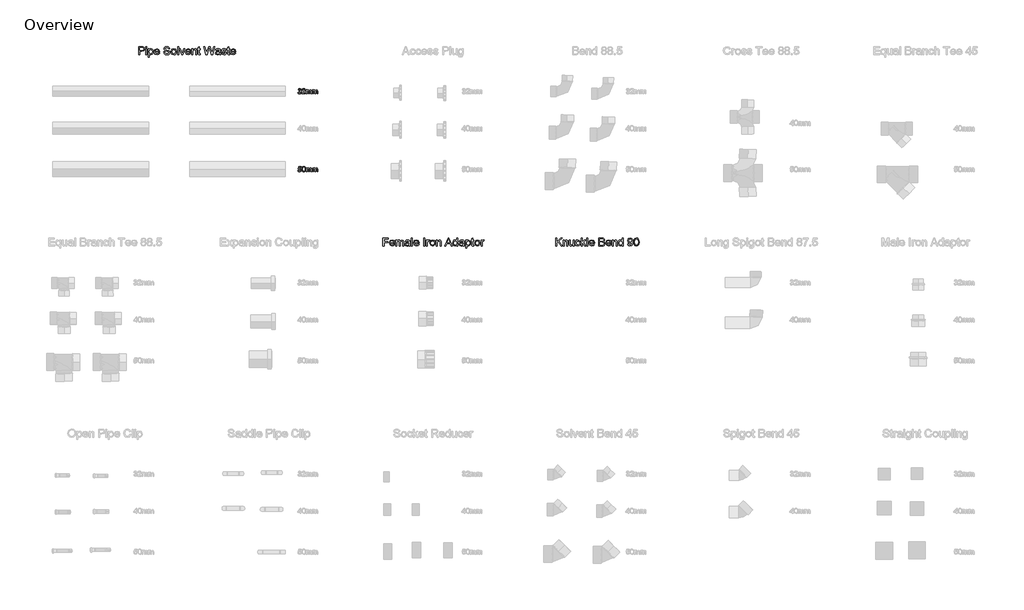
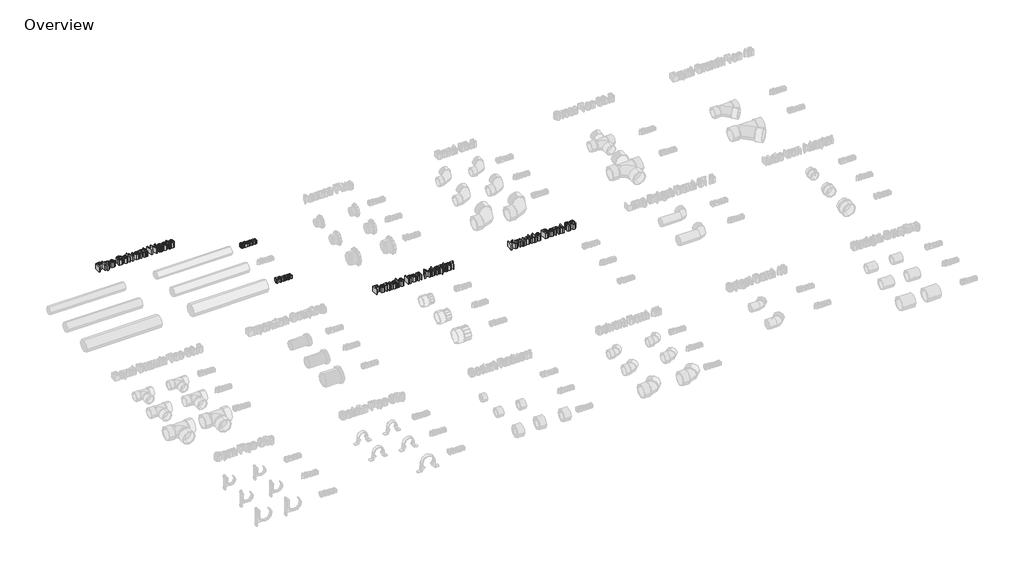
# One storey, part 6 of 10: 5 proxies.
"""IFC4 building model written with IfcOpenShell, lengths in millimetres."""

from ifc_helpers import new_model, si_unit, origin, origin_with_axes, place, context, project, spatial, polyline, outline, extrude, element, save

model = new_model("IFC4")

# Units and contexts
model_context = context("Model", 3, world=origin())
ifc_project = project(units=[si_unit("LENGTHUNIT", "METRE", prefix="MILLI")], contexts=[model_context])

# Site, building, storey
site = spatial("IfcSite", under=ifc_project)
building = spatial("IfcBuilding", under=site)
storey = spatial("IfcBuildingStorey", under=building, Name="Overview", Elevation=0.0)

# Proxies
placement = place(None, origin())
element("IfcBuildingElementProxy", 1, Name="20mm Arial", ObjectType="20mm Arial", at=placement, inside=storey, context=model_context, shape_type="SweptSolid", body=[
    extrude(outline(polyline([(-2298.2349117, 5121.4652453), (-2295.7733732, 5121.7729376), (-2294.4152001, 5119.1815914), (-2291.8743347, 5118.3883222), (-2288.8839501, 5119.4796684), (-2287.7733732, 5122.1815914), (-2288.8743347, 5124.7272645), (-2291.6724117, 5125.7344761), (-2293.3983732, 5125.4652453), (-2293.1243347, 5127.9267837), (-2289.9368347, 5128.6046684), (-2288.6964501, 5130.7777453), (-2289.5954886, 5132.7032261), (-2291.9127963, 5133.4652453), (-2294.2589501, 5132.6960145), (-2295.4656809, 5130.3883222), (-2297.9272194, 5130.6960145), (-2295.9127963, 5134.5565914), (-2291.9993347, 5135.9267837), (-2289.0305847, 5135.251303), (-2286.9536617, 5133.4051491), (-2286.2349117, 5130.9219761), (-2286.917604, 5128.6527453), (-2288.9368347, 5127.0229376), (-2286.2541424, 5125.3402453), (-2285.3118347, 5122.1383222), (-2287.1964501, 5117.7344761), (-2291.9608732, 5115.9267837), (-2296.2781809, 5117.470053), (-2298.2349117, 5121.4652453)])), origin_with_axes(), (0.0, 0.0, 1.0), 15.0),
    extrude(outline(polyline([(-2270.542604, 5118.6960145), (-2270.542604, 5116.2344761), (-2283.4656809, 5116.2344761), (-2283.2012578, 5117.9315914), (-2281.7060655, 5120.5445722), (-2278.6243347, 5123.3979376), (-2274.3743347, 5127.4988991), (-2273.3118347, 5130.2873607), (-2274.3142386, 5132.5445722), (-2276.9320271, 5133.4652453), (-2279.6603924, 5132.5662068), (-2280.6964501, 5130.0806299), (-2283.1579886, 5130.3883222), (-2281.2709694, 5134.5085145), (-2276.8791424, 5135.9267837), (-2272.4728924, 5134.3498607), (-2270.8502963, 5130.4363991), (-2271.2877963, 5128.1022645), (-2272.7421232, 5125.688803), (-2276.2685655, 5122.3162068), (-2279.1002963, 5119.9484184), (-2280.2108732, 5118.6960145), (-2270.542604, 5118.6960145)])), origin_with_axes(), (0.0, 0.0, 1.0), 15.0),
    extrude(outline(polyline([(-2267.4656809, 5116.2344761), (-2267.4656809, 5130.6960145), (-2265.0041424, 5130.6960145), (-2265.0041424, 5128.3162068), (-2263.3118347, 5130.2657261), (-2260.9031809, 5131.0037068), (-2258.4368347, 5130.251303), (-2257.0810655, 5128.1431299), (-2252.7349117, 5131.0037068), (-2249.5161617, 5129.813803), (-2248.3887578, 5126.1479376), (-2248.3887578, 5116.2344761), (-2250.8502963, 5116.2344761), (-2250.8502963, 5125.0902453), (-2251.0786617, 5127.1455337), (-2255.7325078, 5127.5565914), (-2256.6964501, 5124.3979376), (-2256.6964501, 5116.2344761), (-2259.1579886, 5116.2344761), (-2259.1579886, 5125.3642837), (-2259.7277001, 5127.7488991), (-2261.5954886, 5128.5421684), (-2263.417604, 5128.0133222), (-2264.6291424, 5126.4652453), (-2265.0041424, 5123.5277453), (-2265.0041424, 5116.2344761), (-2267.4656809, 5116.2344761)])), origin_with_axes(), (0.0, 0.0, 1.0), 15.0),
    extrude(outline(polyline([(-2244.6964501, 5116.2344761), (-2244.6964501, 5130.6960145), (-2242.2349117, 5130.6960145), (-2242.2349117, 5128.3162068), (-2240.542604, 5130.2657261), (-2238.1339501, 5131.0037068), (-2235.667604, 5130.251303), (-2234.3118347, 5128.1431299), (-2229.9656809, 5131.0037068), (-2226.7469309, 5129.813803), (-2225.6195271, 5126.1479376), (-2225.6195271, 5116.2344761), (-2228.0810655, 5116.2344761), (-2228.0810655, 5125.0902453), (-2228.3094309, 5127.1455337), (-2232.9632771, 5127.5565914), (-2233.9272194, 5124.3979376), (-2233.9272194, 5116.2344761), (-2236.3887578, 5116.2344761), (-2236.3887578, 5125.3642837), (-2236.9584694, 5127.7488991), (-2238.8262578, 5128.5421684), (-2240.6483732, 5128.0133222), (-2241.8599117, 5126.4652453), (-2242.2349117, 5123.5277453), (-2242.2349117, 5116.2344761), (-2244.6964501, 5116.2344761)])), origin_with_axes(), (0.0, 0.0, 1.0), 15.0),
])
element("IfcBuildingElementProxy", 2, Name="20mm Arial", ObjectType="20mm Arial", at=placement, inside=storey, context=model_context, shape_type="SweptSolid", body=[
    extrude(outline(polyline([(-2298.2349117, 4836.1445961), (-2295.7733732, 4836.4522884), (-2294.5329886, 4833.9162307), (-2291.9608732, 4833.067673), (-2288.8743347, 4834.2479615), (-2287.7733732, 4837.380173), (-2288.8046232, 4840.3032499), (-2291.9224117, 4841.3753653), (-2294.0834694, 4840.9474807), (-2295.4656809, 4839.8369038), (-2297.9272194, 4840.1445961), (-2295.7733732, 4850.2984422), (-2286.2349117, 4850.2984422), (-2286.2349117, 4847.8369038), (-2293.7829886, 4847.8369038), (-2294.8358732, 4842.4138269), (-2291.2349117, 4843.8369038), (-2287.0257771, 4842.0724807), (-2285.3118347, 4837.5340192), (-2286.855104, 4832.9667115), (-2291.9704886, 4830.6061346), (-2296.3142386, 4832.1229615), (-2298.2349117, 4836.1445961)])), origin_with_axes(), (0.0, 0.0, 1.0), 15.0),
    extrude(outline(polyline([(-2283.1579886, 4840.6013269), (-2282.4344309, 4846.2671922), (-2280.2853924, 4849.5340192), (-2276.6964501, 4850.6061346), (-2273.8214501, 4849.9715192), (-2271.8358732, 4848.1421922), (-2270.6820271, 4845.2287307), (-2270.2349117, 4840.6013269), (-2270.9512578, 4834.9594999), (-2273.0930847, 4831.6854615), (-2276.6964501, 4830.6061346), (-2281.1964501, 4832.4811346), (-2283.1579886, 4840.6013269)]), holes=[polyline([(-2280.6964501, 4840.6061346), (-2279.542604, 4834.4931538), (-2276.6964501, 4833.067673), (-2273.8502963, 4834.4979615), (-2272.6964501, 4840.6061346), (-2273.8118347, 4846.6494038), (-2276.7252963, 4848.1445961), (-2279.5041424, 4846.8272884), (-2280.6964501, 4840.6061346)])]), origin_with_axes(), (0.0, 0.0, 1.0), 15.0),
    extrude(outline(polyline([(-2267.4656809, 4830.9138269), (-2267.4656809, 4845.3753653), (-2265.0041424, 4845.3753653), (-2265.0041424, 4842.9955576), (-2263.3118347, 4844.9450769), (-2260.9031809, 4845.6830576), (-2258.4368347, 4844.9306538), (-2257.0810655, 4842.8224807), (-2252.7349117, 4845.6830576), (-2249.5161617, 4844.4931538), (-2248.3887578, 4840.8272884), (-2248.3887578, 4830.9138269), (-2250.8502963, 4830.9138269), (-2250.8502963, 4839.7695961), (-2251.0786617, 4841.8248846), (-2255.7325078, 4842.2359422), (-2256.6964501, 4839.0772884), (-2256.6964501, 4830.9138269), (-2259.1579886, 4830.9138269), (-2259.1579886, 4840.0436346), (-2259.7277001, 4842.4282499), (-2261.5954886, 4843.2215192), (-2263.417604, 4842.692673), (-2264.6291424, 4841.1445961), (-2265.0041424, 4838.2070961), (-2265.0041424, 4830.9138269), (-2267.4656809, 4830.9138269)])), origin_with_axes(), (0.0, 0.0, 1.0), 15.0),
    extrude(outline(polyline([(-2244.6964501, 4830.9138269), (-2244.6964501, 4845.3753653), (-2242.2349117, 4845.3753653), (-2242.2349117, 4842.9955576), (-2240.542604, 4844.9450769), (-2238.1339501, 4845.6830576), (-2235.667604, 4844.9306538), (-2234.3118347, 4842.8224807), (-2229.9656809, 4845.6830576), (-2226.7469309, 4844.4931538), (-2225.6195271, 4840.8272884), (-2225.6195271, 4830.9138269), (-2228.0810655, 4830.9138269), (-2228.0810655, 4839.7695961), (-2228.3094309, 4841.8248846), (-2232.9632771, 4842.2359422), (-2233.9272194, 4839.0772884), (-2233.9272194, 4830.9138269), (-2236.3887578, 4830.9138269), (-2236.3887578, 4840.0436346), (-2236.9584694, 4842.4282499), (-2238.8262578, 4843.2215192), (-2240.6483732, 4842.692673), (-2241.8599117, 4841.1445961), (-2242.2349117, 4838.2070961), (-2242.2349117, 4830.9138269), (-2244.6964501, 4830.9138269)])), origin_with_axes(), (0.0, 0.0, 1.0), 15.0),
])
element("IfcBuildingElementProxy", 3, Name="600mm Arial", ObjectType="600mm Arial", at=placement, inside=storey, context=model_context, shape_type="SweptSolid", body=[
    extrude(outline(polyline([(-1987.1462011, 4559.5713154), (-1987.1462011, 4589.1097769), (-1967.3000472, 4589.1097769), (-1967.3000472, 4585.4174692), (-1983.4538934, 4585.4174692), (-1983.4538934, 4576.6482385), (-1969.6077396, 4576.6482385), (-1969.6077396, 4572.9559308), (-1983.4538934, 4572.9559308), (-1983.4538934, 4559.5713154), (-1987.1462011, 4559.5713154)])), origin_with_axes(), (0.0, 0.0, 1.0), 25.0),
    extrude(outline(polyline([(-1947.4971626, 4566.0328538), (-1943.8769703, 4565.5713154), (-1947.2627876, 4560.8044885), (-1953.569278, 4559.1097769), (-1961.2351434, 4562.0340558), (-1964.069278, 4570.2371808), (-1961.2062972, 4578.7107385), (-1953.7784126, 4581.7251615), (-1946.5632684, 4578.71795), (-1943.7615857, 4570.2588154), (-1960.3769703, 4569.2636231), (-1958.2531722, 4564.46795), (-1953.4971626, 4562.8020846), (-1949.8769703, 4563.5737192), (-1947.4971626, 4566.0328538)]), holes=[polyline([(-1960.3769703, 4572.9559308), (-1947.4538934, 4572.9559308), (-1948.9322588, 4576.3020846), (-1953.7928357, 4578.0328538), (-1958.3397107, 4576.6518442), (-1960.3769703, 4572.9559308)])]), origin_with_axes(), (0.0, 0.0, 1.0), 25.0),
    extrude(outline(polyline([(-1940.069278, 4559.5713154), (-1940.069278, 4581.2636231), (-1936.3769703, 4581.2636231), (-1936.3769703, 4577.6939115), (-1933.8385088, 4580.6181904), (-1930.225528, 4581.7251615), (-1926.5260088, 4580.5965558), (-1924.4923549, 4577.4342962), (-1917.9731242, 4581.7251615), (-1913.1449992, 4579.9403058), (-1911.4538934, 4574.4415077), (-1911.4538934, 4559.5713154), (-1915.1462011, 4559.5713154), (-1915.1462011, 4572.8549692), (-1915.4887492, 4575.9379019), (-1916.7291338, 4577.4559308), (-1918.8385088, 4578.0328538), (-1922.4695184, 4576.5544885), (-1923.9154319, 4571.8165077), (-1923.9154319, 4559.5713154), (-1927.6077396, 4559.5713154), (-1927.6077396, 4573.2660269), (-1928.4623069, 4576.84295), (-1931.2639896, 4578.0328538), (-1933.9971626, 4577.2395846), (-1935.8144703, 4574.9174692), (-1936.3769703, 4570.5112192), (-1936.3769703, 4559.5713154), (-1940.069278, 4559.5713154)])), origin_with_axes(), (0.0, 0.0, 1.0), 25.0),
    extrude(outline(polyline([(-1892.069278, 4562.3405462), (-1895.6498069, 4559.8381423), (-1899.6053357, 4559.1097769), (-1904.9671146, 4560.8621808), (-1906.8385088, 4565.3405462), (-1906.131778, 4568.2612192), (-1904.2748069, 4570.3814115), (-1901.6894703, 4571.59295), (-1898.4947588, 4572.1482385), (-1892.0909126, 4573.4174692), (-1893.0861049, 4576.9655462), (-1897.1678357, 4578.0328538), (-1900.9034126, 4577.3225173), (-1902.6846626, 4574.8020846), (-1906.3769703, 4575.2636231), (-1904.7796146, 4578.8693923), (-1901.5632684, 4580.9823731), (-1896.6918742, 4581.7251615), (-1892.2171146, 4581.0689115), (-1889.6894703, 4579.421075), (-1888.5572588, 4576.9150654), (-1888.3769703, 4573.6842962), (-1888.3769703, 4569.0905462), (-1888.1894703, 4562.6758827), (-1887.4538934, 4559.5713154), (-1891.1462011, 4559.5713154), (-1892.069278, 4562.3405462)]), holes=[polyline([(-1892.0800953, 4569.202325), (-1898.0260088, 4568.59295), (-1901.2026915, 4567.9943923), (-1902.6413934, 4567.0208346), (-1902.0464415, 4563.6025654), (-1898.819278, 4562.8020846), (-1895.0837011, 4563.6854981), (-1892.6750472, 4565.8237192), (-1892.0800953, 4569.202325)])]), origin_with_axes(), (0.0, 0.0, 1.0), 25.0),
    extrude(outline(polyline([(-1883.3000472, 4559.5713154), (-1883.3000472, 4589.1097769), (-1879.6077396, 4589.1097769), (-1879.6077396, 4559.5713154), (-1883.3000472, 4559.5713154)])), origin_with_axes(), (0.0, 0.0, 1.0), 25.0),
    extrude(outline(polyline([(-1858.881778, 4566.0328538), (-1855.2615857, 4565.5713154), (-1858.647403, 4560.8044885), (-1864.9538934, 4559.1097769), (-1872.6197588, 4562.0340558), (-1875.4538934, 4570.2371808), (-1872.5909126, 4578.7107385), (-1865.163028, 4581.7251615), (-1857.9478838, 4578.71795), (-1855.1462011, 4570.2588154), (-1871.7615857, 4569.2636231), (-1869.6377876, 4564.46795), (-1864.881778, 4562.8020846), (-1861.2615857, 4563.5737192), (-1858.881778, 4566.0328538)]), holes=[polyline([(-1871.7615857, 4572.9559308), (-1858.8385088, 4572.9559308), (-1860.3168742, 4576.3020846), (-1865.1774511, 4578.0328538), (-1869.7243261, 4576.6518442), (-1871.7615857, 4572.9559308)])]), origin_with_axes(), (0.0, 0.0, 1.0), 25.0),
    extrude(outline(polyline([(-1838.9923549, 4559.5713154), (-1838.9923549, 4589.1097769), (-1835.3000472, 4589.1097769), (-1835.3000472, 4559.5713154), (-1838.9923549, 4559.5713154)])), origin_with_axes(), (0.0, 0.0, 1.0), 25.0),
    extrude(outline(polyline([(-1828.3769703, 4559.5713154), (-1828.3769703, 4581.2636231), (-1825.1462011, 4581.2636231), (-1825.1462011, 4578.0544885), (-1822.8529319, 4581.0112192), (-1820.5452396, 4581.7251615), (-1816.8385088, 4580.5857385), (-1818.0716819, 4577.2756423), (-1820.6678357, 4578.0328538), (-1822.7555761, 4577.3044885), (-1824.0861049, 4575.2852577), (-1824.6846626, 4570.9727577), (-1824.6846626, 4559.5713154), (-1828.3769703, 4559.5713154)])), origin_with_axes(), (0.0, 0.0, 1.0), 25.0),
    extrude(outline(polyline([(-1815.4538934, 4570.4174692), (-1812.2591819, 4579.3237192), (-1805.7543742, 4581.7251615), (-1798.7772107, 4578.8008827), (-1796.069278, 4570.7203538), (-1797.2663934, 4564.1506423), (-1800.7531722, 4560.4330942), (-1805.7543742, 4559.1097769), (-1812.7748069, 4562.0232385), (-1815.4538934, 4570.4174692)]), holes=[polyline([(-1811.7615857, 4570.4246808), (-1810.0524511, 4564.702325), (-1805.7543742, 4562.8020846), (-1801.4707203, 4564.7131423), (-1799.7615857, 4570.5400654), (-1801.4815376, 4576.1326135), (-1805.7543742, 4578.0328538), (-1810.0524511, 4576.139825), (-1811.7615857, 4570.4246808)])]), origin_with_axes(), (0.0, 0.0, 1.0), 25.0),
    extrude(outline(polyline([(-1791.9154319, 4559.5713154), (-1791.9154319, 4581.2636231), (-1788.2231242, 4581.2636231), (-1788.2231242, 4578.2347769), (-1781.5452396, 4581.7251615), (-1778.0584607, 4581.0220365), (-1775.678653, 4579.1758827), (-1774.5716819, 4576.4607385), (-1774.3769703, 4572.8910269), (-1774.3769703, 4559.5713154), (-1778.069278, 4559.5713154), (-1778.069278, 4572.3934308), (-1778.4947588, 4575.6602577), (-1779.9983646, 4577.3874212), (-1782.5332203, 4578.0328538), (-1786.5392299, 4576.5833346), (-1788.2231242, 4571.0809308), (-1788.2231242, 4559.5713154), (-1791.9154319, 4559.5713154)])), origin_with_axes(), (0.0, 0.0, 1.0), 25.0),
    extrude(outline(polyline([(-1760.7399511, 4559.5713154), (-1748.9490857, 4589.1097769), (-1745.8048549, 4589.1097769), (-1734.0139896, 4559.5713154), (-1737.9154319, 4559.5713154), (-1741.2976434, 4568.8020846), (-1753.4635088, 4568.8020846), (-1756.8385088, 4559.5713154), (-1760.7399511, 4559.5713154)]), holes=[polyline([(-1752.1077396, 4572.4943923), (-1742.6462011, 4572.4943923), (-1745.3072588, 4579.7564115), (-1747.3769703, 4585.4174692), (-1749.2159126, 4580.3910269), (-1752.1077396, 4572.4943923)])]), origin_with_axes(), (0.0, 0.0, 1.0), 25.0),
    extrude(outline(polyline([(-1717.1462011, 4559.5713154), (-1717.1462011, 4563.0544885), (-1722.9659126, 4559.1097769), (-1727.538028, 4560.5376615), (-1730.7687972, 4564.5220365), (-1731.9154319, 4570.3958346), (-1730.8589415, 4576.2732385), (-1727.6930761, 4580.3189115), (-1722.9803357, 4581.7251615), (-1719.5764896, 4580.7191519), (-1717.1462011, 4578.1049692), (-1717.1462011, 4589.1097769), (-1713.4538934, 4589.1097769), (-1713.4538934, 4559.5713154), (-1717.1462011, 4559.5713154)]), holes=[polyline([(-1728.2231242, 4570.4102577), (-1726.5572588, 4564.6951135), (-1722.6269703, 4562.8020846), (-1718.7435569, 4564.608575), (-1717.1462011, 4570.1290077), (-1718.772403, 4576.1217962), (-1722.7784126, 4578.0328538), (-1726.6654319, 4576.1975173), (-1728.2231242, 4570.4102577)])]), origin_with_axes(), (0.0, 0.0, 1.0), 25.0),
    extrude(outline(polyline([(-1694.069278, 4562.3405462), (-1697.6498069, 4559.8381423), (-1701.6053357, 4559.1097769), (-1706.9671146, 4560.8621808), (-1708.8385088, 4565.3405462), (-1708.131778, 4568.2612192), (-1706.2748069, 4570.3814115), (-1703.6894703, 4571.59295), (-1700.4947588, 4572.1482385), (-1694.0909126, 4573.4174692), (-1695.0861049, 4576.9655462), (-1699.1678357, 4578.0328538), (-1702.9034126, 4577.3225173), (-1704.6846626, 4574.8020846), (-1708.3769703, 4575.2636231), (-1706.7796146, 4578.8693923), (-1703.5632684, 4580.9823731), (-1698.6918742, 4581.7251615), (-1694.2171146, 4581.0689115), (-1691.6894703, 4579.421075), (-1690.5572588, 4576.9150654), (-1690.3769703, 4573.6842962), (-1690.3769703, 4569.0905462), (-1690.1894703, 4562.6758827), (-1689.4538934, 4559.5713154), (-1693.1462011, 4559.5713154), (-1694.069278, 4562.3405462)]), holes=[polyline([(-1694.0800953, 4569.202325), (-1700.0260088, 4568.59295), (-1703.2026915, 4567.9943923), (-1704.6413934, 4567.0208346), (-1704.0464415, 4563.6025654), (-1700.819278, 4562.8020846), (-1697.0837011, 4563.6854981), (-1694.6750472, 4565.8237192), (-1694.0800953, 4569.202325)])]), origin_with_axes(), (0.0, 0.0, 1.0), 25.0),
    extrude(outline(polyline([(-1685.3000472, 4551.2636231), (-1685.3000472, 4581.2636231), (-1681.6077396, 4581.2636231), (-1681.6077396, 4577.6434308), (-1679.0548549, 4580.7047288), (-1675.6077396, 4581.7251615), (-1670.9274511, 4580.2972769), (-1667.8697588, 4576.2732385), (-1666.8385088, 4570.5833346), (-1668.0031722, 4564.6013635), (-1671.3853838, 4560.5268442), (-1676.0548549, 4559.1097769), (-1679.2675953, 4560.0580942), (-1681.6077396, 4562.4559308), (-1681.6077396, 4551.2636231), (-1685.3000472, 4551.2636231)]), holes=[polyline([(-1681.6077396, 4570.2443923), (-1680.0103838, 4564.6193923), (-1676.1341819, 4562.8020846), (-1672.178653, 4564.6842962), (-1670.5308165, 4570.5184308), (-1672.1389896, 4576.1578538), (-1675.9827396, 4578.0328538), (-1679.9022107, 4576.0388635), (-1681.6077396, 4570.2443923)])]), origin_with_axes(), (0.0, 0.0, 1.0), 25.0),
    extrude(outline(polyline([(-1654.8385088, 4562.6506423), (-1654.3769703, 4559.4631423), (-1657.1389896, 4559.1097769), (-1660.2327396, 4559.7227577), (-1661.7760088, 4561.3309308), (-1662.2231242, 4565.5208346), (-1662.2231242, 4577.5713154), (-1664.9923549, 4577.5713154), (-1664.9923549, 4581.2636231), (-1662.2231242, 4581.2636231), (-1662.2231242, 4586.5352577), (-1658.5308165, 4588.7059308), (-1658.5308165, 4581.2636231), (-1654.8385088, 4581.2636231), (-1654.8385088, 4577.5713154), (-1658.5308165, 4577.5713154), (-1658.5308165, 4565.6290077), (-1658.3361049, 4563.7251615), (-1654.8385088, 4562.6506423)])), origin_with_axes(), (0.0, 0.0, 1.0), 25.0),
    extrude(outline(polyline([(-1652.069278, 4570.4174692), (-1648.8745665, 4579.3237192), (-1642.3697588, 4581.7251615), (-1635.3925953, 4578.8008827), (-1632.6846626, 4570.7203538), (-1633.881778, 4564.1506423), (-1637.3685569, 4560.4330942), (-1642.3697588, 4559.1097769), (-1649.3901915, 4562.0232385), (-1652.069278, 4570.4174692)]), holes=[polyline([(-1648.3769703, 4570.4246808), (-1646.6678357, 4564.702325), (-1642.3697588, 4562.8020846), (-1638.0861049, 4564.7131423), (-1636.3769703, 4570.5400654), (-1638.0969222, 4576.1326135), (-1642.3697588, 4578.0328538), (-1646.6678357, 4576.139825), (-1648.3769703, 4570.4246808)])]), origin_with_axes(), (0.0, 0.0, 1.0), 25.0),
    extrude(outline(polyline([(-1628.5308165, 4559.5713154), (-1628.5308165, 4581.2636231), (-1625.3000472, 4581.2636231), (-1625.3000472, 4578.0544885), (-1623.006778, 4581.0112192), (-1620.6990857, 4581.7251615), (-1616.9923549, 4580.5857385), (-1618.225528, 4577.2756423), (-1620.8216819, 4578.0328538), (-1622.9094222, 4577.3044885), (-1624.2399511, 4575.2852577), (-1624.8385088, 4570.9727577), (-1624.8385088, 4559.5713154), (-1628.5308165, 4559.5713154)])), origin_with_axes(), (0.0, 0.0, 1.0), 25.0),
])
element("IfcBuildingElementProxy", 4, Name="600mm Arial", ObjectType="600mm Arial", at=placement, inside=storey, context=model_context, shape_type="SweptSolid", body=[
    extrude(outline(polyline([(-1355.3000472, 4559.5713154), (-1355.3000472, 4589.1097769), (-1351.6077396, 4589.1097769), (-1351.6077396, 4574.6506423), (-1336.4635088, 4589.1097769), (-1331.3000472, 4589.1097769), (-1344.0139896, 4576.9655462), (-1330.8385088, 4559.5713154), (-1335.3529319, 4559.5713154), (-1346.631778, 4574.4703538), (-1351.6077396, 4569.7251615), (-1351.6077396, 4559.5713154), (-1355.3000472, 4559.5713154)])), origin_with_axes(), (0.0, 0.0, 1.0), 25.0),
    extrude(outline(polyline([(-1328.5308165, 4559.5713154), (-1328.5308165, 4581.2636231), (-1324.8385088, 4581.2636231), (-1324.8385088, 4578.2347769), (-1318.1606242, 4581.7251615), (-1314.6738453, 4581.0220365), (-1312.2940376, 4579.1758827), (-1311.1870665, 4576.4607385), (-1310.9923549, 4572.8910269), (-1310.9923549, 4559.5713154), (-1314.6846626, 4559.5713154), (-1314.6846626, 4572.3934308), (-1315.1101434, 4575.6602577), (-1316.6137492, 4577.3874212), (-1319.1486049, 4578.0328538), (-1323.1546146, 4576.5833346), (-1324.8385088, 4571.0809308), (-1324.8385088, 4559.5713154), (-1328.5308165, 4559.5713154)])), origin_with_axes(), (0.0, 0.0, 1.0), 25.0),
    extrude(outline(polyline([(-1292.069278, 4559.5713154), (-1292.069278, 4563.2996808), (-1298.7327396, 4559.1097769), (-1302.2050953, 4559.8453538), (-1304.5993261, 4561.6915077), (-1305.6990857, 4564.4102577), (-1305.9154319, 4567.84295), (-1305.9154319, 4581.2636231), (-1302.2231242, 4581.2636231), (-1302.2231242, 4569.5809308), (-1301.9995665, 4565.8165077), (-1300.5392299, 4563.6061712), (-1297.788028, 4562.8020846), (-1294.7050953, 4563.6242), (-1292.6678357, 4565.8633827), (-1292.069278, 4569.9775654), (-1292.069278, 4581.2636231), (-1288.3769703, 4581.2636231), (-1288.3769703, 4559.5713154), (-1292.069278, 4559.5713154)])), origin_with_axes(), (0.0, 0.0, 1.0), 25.0),
    extrude(outline(polyline([(-1269.4538934, 4567.4174692), (-1265.7615857, 4566.9559308), (-1268.725528, 4561.1903058), (-1274.5812972, 4559.1097769), (-1281.5800953, 4562.0124212), (-1284.2231242, 4570.3381423), (-1283.0945184, 4576.4715558), (-1279.6546146, 4580.4126615), (-1274.631778, 4581.7251615), (-1269.0175953, 4579.9222769), (-1266.2231242, 4574.8020846), (-1269.9154319, 4574.3405462), (-1271.6281722, 4577.1061712), (-1274.6029319, 4578.0328538), (-1278.8829799, 4576.2083346), (-1280.5308165, 4570.4391038), (-1278.9190376, 4564.6157865), (-1274.7038934, 4562.8020846), (-1271.2243261, 4563.9342962), (-1269.4538934, 4567.4174692)])), origin_with_axes(), (0.0, 0.0, 1.0), 25.0),
    extrude(outline(polyline([(-1262.5308165, 4559.5713154), (-1262.5308165, 4589.1097769), (-1258.8385088, 4589.1097769), (-1258.8385088, 4573.2371808), (-1250.5596626, 4581.2636231), (-1245.4538934, 4581.2636231), (-1253.8337011, 4573.1362192), (-1244.9923549, 4559.5713154), (-1249.3048549, 4559.5713154), (-1256.4803357, 4570.5689115), (-1258.8385088, 4568.2828538), (-1258.8385088, 4559.5713154), (-1262.5308165, 4559.5713154)])), origin_with_axes(), (0.0, 0.0, 1.0), 25.0),
    extrude(outline(polyline([(-1241.7615857, 4559.5713154), (-1241.7615857, 4589.1097769), (-1238.069278, 4589.1097769), (-1238.069278, 4559.5713154), (-1241.7615857, 4559.5713154)])), origin_with_axes(), (0.0, 0.0, 1.0), 25.0),
    extrude(outline(polyline([(-1217.3433165, 4566.0328538), (-1213.7231242, 4565.5713154), (-1217.1089415, 4560.8044885), (-1223.4154319, 4559.1097769), (-1231.0812972, 4562.0340558), (-1233.9154319, 4570.2371808), (-1231.0524511, 4578.7107385), (-1223.6245665, 4581.7251615), (-1216.4094222, 4578.71795), (-1213.6077396, 4570.2588154), (-1230.2231242, 4569.2636231), (-1228.0993261, 4564.46795), (-1223.3433165, 4562.8020846), (-1219.7231242, 4563.5737192), (-1217.3433165, 4566.0328538)]), holes=[polyline([(-1230.2231242, 4572.9559308), (-1217.3000472, 4572.9559308), (-1218.7784126, 4576.3020846), (-1223.6389896, 4578.0328538), (-1228.1858646, 4576.6518442), (-1230.2231242, 4572.9559308)])]), origin_with_axes(), (0.0, 0.0, 1.0), 25.0),
    extrude(outline(polyline([(-1197.9154319, 4559.5713154), (-1197.9154319, 4589.1097769), (-1186.6437972, 4589.1097769), (-1181.1233646, 4588.2407865), (-1177.8637492, 4585.5689115), (-1176.6846626, 4581.7900654), (-1177.6762492, 4578.3393442), (-1180.6726434, 4575.7251615), (-1177.0344222, 4572.9703538), (-1175.7615857, 4568.3766038), (-1176.6305761, 4564.4066519), (-1178.7832203, 4561.5797288), (-1181.9959607, 4560.0797288), (-1186.7303357, 4559.5713154), (-1197.9154319, 4559.5713154)]), holes=[polyline([(-1194.2231242, 4577.1097769), (-1187.4803357, 4577.1097769), (-1183.5428357, 4577.4270846), (-1181.1738453, 4578.7936712), (-1180.3769703, 4581.1987192), (-1181.1197588, 4583.6073731), (-1183.2471626, 4585.0316519), (-1187.9923549, 4585.4174692), (-1194.2231242, 4585.4174692), (-1194.2231242, 4577.1097769)]), polyline([(-1194.2231242, 4563.2636231), (-1186.6510088, 4563.2636231), (-1183.9106242, 4563.4078538), (-1181.5921146, 4564.2119404), (-1180.0560569, 4565.8525654), (-1179.4538934, 4568.3405462), (-1180.1606242, 4571.2107385), (-1182.4502876, 4572.9234788), (-1187.0115857, 4573.4174692), (-1194.2231242, 4573.4174692), (-1194.2231242, 4563.2636231)])]), origin_with_axes(), (0.0, 0.0, 1.0), 25.0),
    extrude(outline(polyline([(-1155.9587011, 4566.0328538), (-1152.3385088, 4565.5713154), (-1155.7243261, 4560.8044885), (-1162.0308165, 4559.1097769), (-1169.6966819, 4562.0340558), (-1172.5308165, 4570.2371808), (-1169.6678357, 4578.7107385), (-1162.2399511, 4581.7251615), (-1155.0248069, 4578.71795), (-1152.2231242, 4570.2588154), (-1168.8385088, 4569.2636231), (-1166.7147107, 4564.46795), (-1161.9587011, 4562.8020846), (-1158.3385088, 4563.5737192), (-1155.9587011, 4566.0328538)]), holes=[polyline([(-1168.8385088, 4572.9559308), (-1155.9154319, 4572.9559308), (-1157.3937972, 4576.3020846), (-1162.2543742, 4578.0328538), (-1166.8012492, 4576.6518442), (-1168.8385088, 4572.9559308)])]), origin_with_axes(), (0.0, 0.0, 1.0), 25.0),
    extrude(outline(polyline([(-1148.5308165, 4559.5713154), (-1148.5308165, 4581.2636231), (-1144.8385088, 4581.2636231), (-1144.8385088, 4578.2347769), (-1138.1606242, 4581.7251615), (-1134.6738453, 4581.0220365), (-1132.2940376, 4579.1758827), (-1131.1870665, 4576.4607385), (-1130.9923549, 4572.8910269), (-1130.9923549, 4559.5713154), (-1134.6846626, 4559.5713154), (-1134.6846626, 4572.3934308), (-1135.1101434, 4575.6602577), (-1136.6137492, 4577.3874212), (-1139.1486049, 4578.0328538), (-1143.1546146, 4576.5833346), (-1144.8385088, 4571.0809308), (-1144.8385088, 4559.5713154), (-1148.5308165, 4559.5713154)])), origin_with_axes(), (0.0, 0.0, 1.0), 25.0),
    extrude(outline(polyline([(-1112.5308165, 4559.5713154), (-1112.5308165, 4563.0544885), (-1118.350528, 4559.1097769), (-1122.9226434, 4560.5376615), (-1126.1534126, 4564.5220365), (-1127.3000472, 4570.3958346), (-1126.2435569, 4576.2732385), (-1123.0776915, 4580.3189115), (-1118.3649511, 4581.7251615), (-1114.9611049, 4580.7191519), (-1112.5308165, 4578.1049692), (-1112.5308165, 4589.1097769), (-1108.8385088, 4589.1097769), (-1108.8385088, 4559.5713154), (-1112.5308165, 4559.5713154)]), holes=[polyline([(-1123.6077396, 4570.4102577), (-1121.9418742, 4564.6951135), (-1118.0115857, 4562.8020846), (-1114.1281722, 4564.608575), (-1112.5308165, 4570.1290077), (-1114.1570184, 4576.1217962), (-1118.163028, 4578.0328538), (-1122.0500472, 4576.1975173), (-1123.6077396, 4570.4102577)])]), origin_with_axes(), (0.0, 0.0, 1.0), 25.0),
    extrude(outline(polyline([(-1092.2231242, 4566.9559308), (-1088.5308165, 4567.4174692), (-1086.8721626, 4563.8946327), (-1083.7279319, 4562.8020846), (-1080.7387492, 4563.5052096), (-1078.7123069, 4565.3838154), (-1077.5043742, 4568.59295), (-1076.9707203, 4572.8766038), (-1079.9454799, 4570.7996808), (-1083.9947588, 4569.7251615), (-1090.1642299, 4572.3501615), (-1092.6846626, 4579.2660269), (-1090.0416338, 4586.40545), (-1083.4178357, 4589.1097769), (-1078.1570184, 4587.5665077), (-1074.5368261, 4583.1674692), (-1073.3000472, 4574.9030462), (-1074.5332203, 4565.9354981), (-1078.2002876, 4560.8549692), (-1083.9010088, 4559.1097769), (-1089.5764896, 4561.1686712), (-1092.2231242, 4566.9559308)]), holes=[polyline([(-1076.9923549, 4579.3525654), (-1078.5861049, 4583.78045), (-1082.819278, 4585.4174692), (-1087.2615857, 4583.6542481), (-1088.9923549, 4579.0857385), (-1087.3553357, 4574.9931904), (-1082.9202396, 4573.4174692), (-1078.6618261, 4574.9931904), (-1076.9923549, 4579.3525654)])]), origin_with_axes(), (0.0, 0.0, 1.0), 25.0),
    extrude(outline(polyline([(-1070.069278, 4574.1025654), (-1068.9839415, 4582.6013635), (-1065.7603838, 4587.5016038), (-1060.3769703, 4589.1097769), (-1056.0644703, 4588.1578538), (-1053.0861049, 4585.4138635), (-1051.3553357, 4581.0436712), (-1050.6846626, 4574.1025654), (-1051.7591819, 4565.639825), (-1054.9719222, 4560.7287673), (-1060.3769703, 4559.1097769), (-1067.1269703, 4561.9222769), (-1070.069278, 4574.1025654)]), holes=[polyline([(-1066.3769703, 4574.1097769), (-1064.6462011, 4564.9403058), (-1060.3769703, 4562.8020846), (-1056.1077396, 4564.9475173), (-1054.3769703, 4574.1097769), (-1056.0500472, 4583.1746808), (-1060.4202396, 4585.4174692), (-1064.5885088, 4583.4415077), (-1066.3769703, 4574.1097769)])]), origin_with_axes(), (0.0, 0.0, 1.0), 25.0),
])
element("IfcBuildingElementProxy", 5, Name="600mm Arial", ObjectType="600mm Arial", at=placement, inside=storey, context=model_context, shape_type="SweptSolid", body=[
    extrude(outline(polyline([(-2881.0965967, 5259.5713154), (-2881.0965967, 5289.1097769), (-2870.1494813, 5289.1097769), (-2865.7360198, 5288.8285269), (-2862.1482794, 5287.4475173), (-2859.8225582, 5284.5917481), (-2858.9427506, 5280.5641038), (-2861.3189525, 5274.1818923), (-2869.8970775, 5271.5713154), (-2877.404289, 5271.5713154), (-2877.404289, 5259.5713154), (-2881.0965967, 5259.5713154)]), holes=[polyline([(-2877.404289, 5275.2636231), (-2869.6807313, 5275.2636231), (-2864.2432313, 5276.6193923), (-2862.6350582, 5280.4342962), (-2863.5833756, 5283.4919885), (-2866.0749621, 5285.1650654), (-2869.7672698, 5285.4174692), (-2877.404289, 5285.4174692), (-2877.404289, 5275.2636231)])]), origin_with_axes(), (0.0, 0.0, 1.0), 25.0),
    extrude(outline(polyline([(-2854.3273659, 5285.4174692), (-2854.3273659, 5289.1097769), (-2850.6350582, 5289.1097769), (-2850.6350582, 5285.4174692), (-2854.3273659, 5285.4174692)])), origin_with_axes(), (0.0, 0.0, 1.0), 25.0),
    extrude(outline(polyline([(-2854.3273659, 5259.5713154), (-2854.3273659, 5281.2636231), (-2850.6350582, 5281.2636231), (-2850.6350582, 5259.5713154), (-2854.3273659, 5259.5713154)])), origin_with_axes(), (0.0, 0.0, 1.0), 25.0),
    extrude(outline(polyline([(-2845.0965967, 5251.2636231), (-2845.0965967, 5281.2636231), (-2841.404289, 5281.2636231), (-2841.404289, 5277.6434308), (-2838.8514044, 5280.7047288), (-2835.404289, 5281.7251615), (-2830.7240006, 5280.2972769), (-2827.6663082, 5276.2732385), (-2826.6350582, 5270.5833346), (-2827.7997217, 5264.6013635), (-2831.1819332, 5260.5268442), (-2835.8514044, 5259.1097769), (-2839.0641448, 5260.0580942), (-2841.404289, 5262.4559308), (-2841.404289, 5251.2636231), (-2845.0965967, 5251.2636231)]), holes=[polyline([(-2841.404289, 5270.2443923), (-2839.8069332, 5264.6193923), (-2835.9307313, 5262.8020846), (-2831.9752025, 5264.6842962), (-2830.3273659, 5270.5184308), (-2831.935539, 5276.1578538), (-2835.779289, 5278.0328538), (-2839.6987602, 5276.0388635), (-2841.404289, 5270.2443923)])]), origin_with_axes(), (0.0, 0.0, 1.0), 25.0),
    extrude(outline(polyline([(-2807.2937121, 5266.0328538), (-2803.6735198, 5265.5713154), (-2807.0593371, 5260.8044885), (-2813.3658275, 5259.1097769), (-2821.0316929, 5262.0340558), (-2823.8658275, 5270.2371808), (-2821.0028467, 5278.7107385), (-2813.5749621, 5281.7251615), (-2806.3598179, 5278.71795), (-2803.5581352, 5270.2588154), (-2820.1735198, 5269.2636231), (-2818.0497217, 5264.46795), (-2813.2937121, 5262.8020846), (-2809.6735198, 5263.5737192), (-2807.2937121, 5266.0328538)]), holes=[polyline([(-2820.1735198, 5272.9559308), (-2807.2504429, 5272.9559308), (-2808.7288082, 5276.3020846), (-2813.5893852, 5278.0328538), (-2818.1362602, 5276.6518442), (-2820.1735198, 5272.9559308)])]), origin_with_axes(), (0.0, 0.0, 1.0), 25.0),
    extrude(outline(polyline([(-2789.2504429, 5269.7251615), (-2785.5581352, 5269.7251615), (-2784.3682313, 5266.0292481), (-2781.4619813, 5263.6927096), (-2777.0340967, 5262.8020846), (-2773.1759236, 5263.4763635), (-2770.6843371, 5265.3297288), (-2769.8658275, 5267.8068923), (-2770.4788082, 5270.1109788), (-2772.9884236, 5271.7876615), (-2778.3646256, 5273.1975173), (-2784.1518852, 5275.0184308), (-2787.2925102, 5277.7660269), (-2788.3273659, 5281.4367), (-2787.0473179, 5285.6157865), (-2783.3081352, 5288.5653058), (-2777.8345775, 5289.5713154), (-2771.9932313, 5288.5184308), (-2768.0990006, 5285.4246808), (-2766.6350582, 5280.8020846), (-2770.3273659, 5280.8020846), (-2772.4187121, 5284.5953538), (-2777.6903467, 5285.8790077), (-2782.9764044, 5284.6097769), (-2784.6350582, 5281.5448731), (-2783.4595775, 5278.9847769), (-2777.4307313, 5276.9222769), (-2770.8970775, 5275.0689115), (-2767.3237602, 5272.0761231), (-2766.1735198, 5267.9006423), (-2767.4968371, 5263.483575), (-2771.3045294, 5260.2600173), (-2776.8898659, 5259.1097769), (-2783.4848179, 5260.3501615), (-2787.6566929, 5264.0857385), (-2789.2504429, 5269.7251615)])), origin_with_axes(), (0.0, 0.0, 1.0), 25.0),
    extrude(outline(polyline([(-2762.0196736, 5270.4174692), (-2758.8249621, 5279.3237192), (-2752.3201544, 5281.7251615), (-2745.3429909, 5278.8008827), (-2742.6350582, 5270.7203538), (-2743.8321736, 5264.1506423), (-2747.3189525, 5260.4330942), (-2752.3201544, 5259.1097769), (-2759.3405871, 5262.0232385), (-2762.0196736, 5270.4174692)]), holes=[polyline([(-2758.3273659, 5270.4246808), (-2756.6182313, 5264.702325), (-2752.3201544, 5262.8020846), (-2748.0365006, 5264.7131423), (-2746.3273659, 5270.5400654), (-2748.0473179, 5276.1326135), (-2752.3201544, 5278.0328538), (-2756.6182313, 5276.139825), (-2758.3273659, 5270.4246808)])]), origin_with_axes(), (0.0, 0.0, 1.0), 25.0),
    extrude(outline(polyline([(-2738.4812121, 5259.5713154), (-2738.4812121, 5289.1097769), (-2734.7889044, 5289.1097769), (-2734.7889044, 5259.5713154), (-2738.4812121, 5259.5713154)])), origin_with_axes(), (0.0, 0.0, 1.0), 25.0),
    extrude(outline(polyline([(-2723.9283275, 5259.5713154), (-2731.5581352, 5281.2636231), (-2727.6494813, 5281.2636231), (-2723.0268852, 5268.2684308), (-2721.6350582, 5263.8982385), (-2720.2720775, 5268.0232385), (-2715.6206352, 5281.2636231), (-2711.7119813, 5281.2636231), (-2719.248039, 5259.5713154), (-2723.9283275, 5259.5713154)])), origin_with_axes(), (0.0, 0.0, 1.0), 25.0),
    extrude(outline(polyline([(-2693.2937121, 5266.0328538), (-2689.6735198, 5265.5713154), (-2693.0593371, 5260.8044885), (-2699.3658275, 5259.1097769), (-2707.0316929, 5262.0340558), (-2709.8658275, 5270.2371808), (-2707.0028467, 5278.7107385), (-2699.5749621, 5281.7251615), (-2692.3598179, 5278.71795), (-2689.5581352, 5270.2588154), (-2706.1735198, 5269.2636231), (-2704.0497217, 5264.46795), (-2699.2937121, 5262.8020846), (-2695.6735198, 5263.5737192), (-2693.2937121, 5266.0328538)]), holes=[polyline([(-2706.1735198, 5272.9559308), (-2693.2504429, 5272.9559308), (-2694.7288082, 5276.3020846), (-2699.5893852, 5278.0328538), (-2704.1362602, 5276.6518442), (-2706.1735198, 5272.9559308)])]), origin_with_axes(), (0.0, 0.0, 1.0), 25.0),
    extrude(outline(polyline([(-2685.8658275, 5259.5713154), (-2685.8658275, 5281.2636231), (-2682.1735198, 5281.2636231), (-2682.1735198, 5278.2347769), (-2675.4956352, 5281.7251615), (-2672.0088563, 5281.0220365), (-2669.6290486, 5279.1758827), (-2668.5220775, 5276.4607385), (-2668.3273659, 5272.8910269), (-2668.3273659, 5259.5713154), (-2672.0196736, 5259.5713154), (-2672.0196736, 5272.3934308), (-2672.4451544, 5275.6602577), (-2673.9487602, 5277.3874212), (-2676.4836159, 5278.0328538), (-2680.4896256, 5276.5833346), (-2682.1735198, 5271.0809308), (-2682.1735198, 5259.5713154), (-2685.8658275, 5259.5713154)])), origin_with_axes(), (0.0, 0.0, 1.0), 25.0),
    extrude(outline(polyline([(-2655.404289, 5262.6506423), (-2654.9427506, 5259.4631423), (-2657.7047698, 5259.1097769), (-2660.7985198, 5259.7227577), (-2662.341789, 5261.3309308), (-2662.7889044, 5265.5208346), (-2662.7889044, 5277.5713154), (-2665.5581352, 5277.5713154), (-2665.5581352, 5281.2636231), (-2662.7889044, 5281.2636231), (-2662.7889044, 5286.5352577), (-2659.0965967, 5288.7059308), (-2659.0965967, 5281.2636231), (-2655.404289, 5281.2636231), (-2655.404289, 5277.5713154), (-2659.0965967, 5277.5713154), (-2659.0965967, 5265.6290077), (-2658.9018852, 5263.7251615), (-2655.404289, 5262.6506423)])), origin_with_axes(), (0.0, 0.0, 1.0), 25.0),
    extrude(outline(polyline([(-2634.4259236, 5259.5713154), (-2642.4812121, 5289.1097769), (-2638.6735198, 5289.1097769), (-2634.0004429, 5269.6963154), (-2632.5581352, 5263.7035269), (-2631.0148659, 5269.0040077), (-2625.1590967, 5289.1097769), (-2619.6711159, 5289.1097769), (-2615.4163082, 5274.5352577), (-2612.2504429, 5263.7035269), (-2610.8514044, 5269.5232385), (-2606.1350582, 5289.1097769), (-2602.3273659, 5289.1097769), (-2610.3898659, 5259.5713154), (-2614.3345775, 5259.5713154), (-2621.4163082, 5282.3597769), (-2622.404289, 5285.5400654), (-2623.5148659, 5281.7107385), (-2629.9691929, 5259.5713154), (-2634.4259236, 5259.5713154)])), origin_with_axes(), (0.0, 0.0, 1.0), 25.0),
    extrude(outline(polyline([(-2585.2504429, 5262.3405462), (-2588.8309717, 5259.8381423), (-2592.7865006, 5259.1097769), (-2598.1482794, 5260.8621808), (-2600.0196736, 5265.3405462), (-2599.3129429, 5268.2612192), (-2597.4559717, 5270.3814115), (-2594.8706352, 5271.59295), (-2591.6759236, 5272.1482385), (-2585.2720775, 5273.4174692), (-2586.2672698, 5276.9655462), (-2590.3490006, 5278.0328538), (-2594.0845775, 5277.3225173), (-2595.8658275, 5274.8020846), (-2599.5581352, 5275.2636231), (-2597.9607794, 5278.8693923), (-2594.7444332, 5280.9823731), (-2589.873039, 5281.7251615), (-2585.3982794, 5281.0689115), (-2582.8706352, 5279.421075), (-2581.7384236, 5276.9150654), (-2581.5581352, 5273.6842962), (-2581.5581352, 5269.0905462), (-2581.3706352, 5262.6758827), (-2580.6350582, 5259.5713154), (-2584.3273659, 5259.5713154), (-2585.2504429, 5262.3405462)]), holes=[polyline([(-2585.2612602, 5269.202325), (-2591.2071736, 5268.59295), (-2594.3838563, 5267.9943923), (-2595.8225582, 5267.0208346), (-2595.2276063, 5263.6025654), (-2592.0004429, 5262.8020846), (-2588.2648659, 5263.6854981), (-2585.8562121, 5265.8237192), (-2585.2612602, 5269.202325)])]), origin_with_axes(), (0.0, 0.0, 1.0), 25.0),
    extrude(outline(polyline([(-2577.8658275, 5266.0328538), (-2574.1735198, 5266.4943923), (-2572.4643852, 5263.7540077), (-2568.5485198, 5262.8020846), (-2564.7840967, 5263.6746808), (-2563.5581352, 5265.7227577), (-2564.7913082, 5267.3814115), (-2568.591789, 5268.4342962), (-2574.1518852, 5270.2407865), (-2576.5785679, 5272.3501615), (-2577.404289, 5275.3285269), (-2576.7408275, 5278.0797288), (-2574.9307313, 5280.1818923), (-2572.5833756, 5281.2744404), (-2569.4066929, 5281.7251615), (-2564.9139044, 5281.0004019), (-2562.0581352, 5279.0388635), (-2560.7889044, 5275.7251615), (-2564.4812121, 5275.2636231), (-2565.8694332, 5277.3008827), (-2569.1182313, 5278.0328538), (-2572.6518852, 5277.3333346), (-2573.7119813, 5275.7035269), (-2571.8946736, 5273.8141038), (-2568.7143852, 5273.0280462), (-2563.294914, 5271.2900654), (-2560.7780871, 5269.3213154), (-2559.8658275, 5266.1121808), (-2560.9367409, 5262.5785269), (-2564.0268852, 5260.014825), (-2568.5990006, 5259.1097769), (-2575.0389044, 5260.8549692), (-2577.8658275, 5266.0328538)])), origin_with_axes(), (0.0, 0.0, 1.0), 25.0),
    extrude(outline(polyline([(-2547.8658275, 5262.6506423), (-2547.404289, 5259.4631423), (-2550.1663082, 5259.1097769), (-2553.2600582, 5259.7227577), (-2554.8033275, 5261.3309308), (-2555.2504429, 5265.5208346), (-2555.2504429, 5277.5713154), (-2558.0196736, 5277.5713154), (-2558.0196736, 5281.2636231), (-2555.2504429, 5281.2636231), (-2555.2504429, 5286.5352577), (-2551.5581352, 5288.7059308), (-2551.5581352, 5281.2636231), (-2547.8658275, 5281.2636231), (-2547.8658275, 5277.5713154), (-2551.5581352, 5277.5713154), (-2551.5581352, 5265.6290077), (-2551.3634236, 5263.7251615), (-2547.8658275, 5262.6506423)])), origin_with_axes(), (0.0, 0.0, 1.0), 25.0),
    extrude(outline(polyline([(-2528.9860198, 5266.0328538), (-2525.3658275, 5265.5713154), (-2528.7516448, 5260.8044885), (-2535.0581352, 5259.1097769), (-2542.7240006, 5262.0340558), (-2545.5581352, 5270.2371808), (-2542.6951544, 5278.7107385), (-2535.2672698, 5281.7251615), (-2528.0521256, 5278.71795), (-2525.2504429, 5270.2588154), (-2541.8658275, 5269.2636231), (-2539.7420294, 5264.46795), (-2534.9860198, 5262.8020846), (-2531.3658275, 5263.5737192), (-2528.9860198, 5266.0328538)]), holes=[polyline([(-2541.8658275, 5272.9559308), (-2528.9427506, 5272.9559308), (-2530.4211159, 5276.3020846), (-2535.2816929, 5278.0328538), (-2539.8285679, 5276.6518442), (-2541.8658275, 5272.9559308)])]), origin_with_axes(), (0.0, 0.0, 1.0), 25.0),
])

save(model, "model.ifc")
